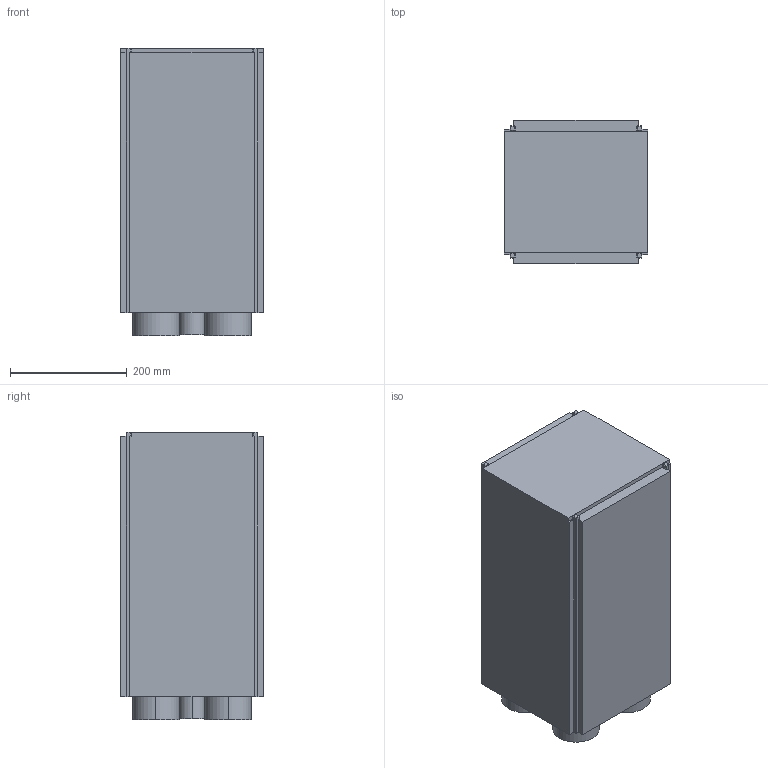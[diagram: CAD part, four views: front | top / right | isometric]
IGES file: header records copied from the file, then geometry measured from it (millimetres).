
Start section:  PTC IGES file: C:\Users\gleb\z) Windows folders\Desktop\1) ISIPOD Fligh t Model\4) CubeSat_Dims\160916_Updated_CubeSat_ISIS_Advised_Max_Dimensio ns\160916_RevC_16U_CubeSat_ISIS_Advised_Max_Dimensions.igs
Global section: file name: C:\Users\gleb\z) Windows folders\Desktop\1) ISIPOD Flight Model\4) CubeSat_Dims\160916_Updated_CubeSat_ISIS_Advised_Max_Dimensions\160916_RevC_16U_CubeSat_ISIS_Advised_Max_Dimensions.igs; native system: gleb by Parametric Technology Corporation; preprocessor: 2003250; author: Unknown; organization: PTC; date: 160916.094338; units: millimetre
Bounding box: 246.3 x 246.3 x 494 mm (x, y, z)
Volume: 27947623.3 mm3; surface area: 611656.9 mm2
Topology: 1 solids, 1 shells, 85 faces, 234 edges, 156 vertices
Faces by surface type: bspline 75, revolution 10
